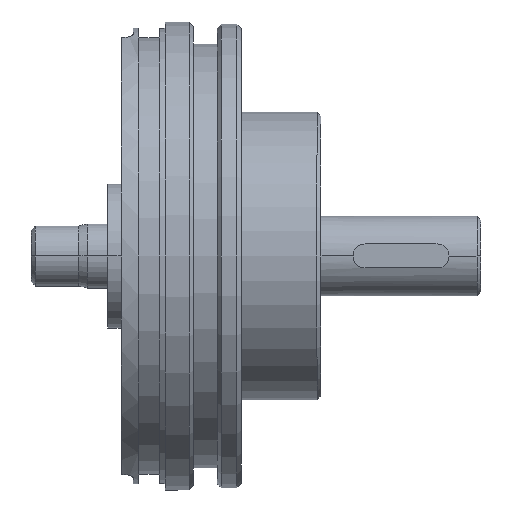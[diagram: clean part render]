
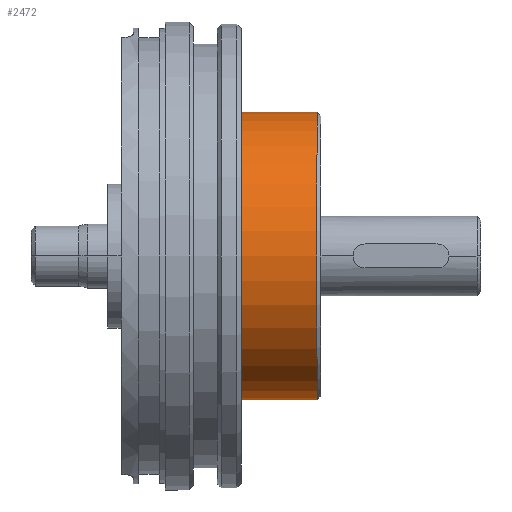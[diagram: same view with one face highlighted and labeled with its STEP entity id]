
A CAD part, left-side view. The second image highlights one B-rep face of the part: STEP entity #2472.
In plain terms, the highlighted cylindrical face has radius 18 mm (diameter 36 mm), a partial arc.
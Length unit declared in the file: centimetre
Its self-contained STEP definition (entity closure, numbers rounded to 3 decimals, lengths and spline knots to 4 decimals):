
#442 = VERTEX_POINT ( 'NONE', #4268 ) ;
#462 = EDGE_CURVE ( 'NONE', #1632, #442, #4298, .T. ) ;
#1632 = VERTEX_POINT ( 'NONE', #5223 ) ;
#1704 = VERTEX_POINT ( 'NONE', #5374 ) ;
#2435 = ORIENTED_EDGE ( 'NONE', *, *, #2480, .F. ) ;
#2442 = EDGE_CURVE ( 'NONE', #1632, #1704, #6720, .T. ) ;
#2443 = ORIENTED_EDGE ( 'NONE', *, *, #2820, .T. ) ;
#2459 = ORIENTED_EDGE ( 'NONE', *, *, #2442, .T. ) ;
#2469 = ORIENTED_EDGE ( 'NONE', *, *, #462, .F. ) ;
#2472 = ADVANCED_FACE ( 'NONE', ( #6738 ), #6736, .T. ) ;
#2479 = EDGE_LOOP ( 'NONE', ( #2469, #2459, #2443, #2435 ) ) ;
#2480 = EDGE_CURVE ( 'NONE', #442, #2849, #6775, .T. ) ;
#2820 = EDGE_CURVE ( 'NONE', #1704, #2849, #7391, .T. ) ;
#2849 = VERTEX_POINT ( 'NONE', #7402 ) ;
#4268 = CARTESIAN_POINT ( 'NONE',  ( 0., 3.2909, -1.8 ) ) ;
#4295 = DIRECTION ( 'NONE',  ( 0., 1., 0. ) ) ;
#4296 = VECTOR ( 'NONE', #4295, 100. ) ;
#4297 = CARTESIAN_POINT ( 'NONE',  ( 0., 4.7909, -1.8 ) ) ;
#4298 = LINE ( 'NONE', #4297, #4296 ) ;
#5223 = CARTESIAN_POINT ( 'NONE',  ( 0., 2.3409, -1.8 ) ) ;
#5374 = CARTESIAN_POINT ( 'NONE',  ( 0., 2.3409, 1.8 ) ) ;
#6716 = DIRECTION ( 'NONE',  ( 0., 0., -1. ) ) ;
#6717 = DIRECTION ( 'NONE',  ( 0., 1., 0. ) ) ;
#6718 = CARTESIAN_POINT ( 'NONE',  ( 0., 2.3409, 0. ) ) ;
#6719 = AXIS2_PLACEMENT_3D ( 'NONE', #6718, #6717, #6716 ) ;
#6720 = CIRCLE ( 'NONE', #6719, 1.8 ) ;
#6736 = CYLINDRICAL_SURFACE ( 'NONE', #6799, 1.8 ) ;
#6737 = CARTESIAN_POINT ( 'NONE',  ( 0., 4.7909, 0. ) ) ;
#6738 = FACE_OUTER_BOUND ( 'NONE', #2479, .T. ) ;
#6772 = DIRECTION ( 'NONE',  ( 0., 0., 1. ) ) ;
#6773 = DIRECTION ( 'NONE',  ( 0., 1., 0. ) ) ;
#6774 = AXIS2_PLACEMENT_3D ( 'NONE', #6780, #6773, #6772 ) ;
#6775 = CIRCLE ( 'NONE', #6774, 1.8 ) ;
#6780 = CARTESIAN_POINT ( 'NONE',  ( 0., 3.2909, 0. ) ) ;
#6797 = DIRECTION ( 'NONE',  ( 0., 0., 1. ) ) ;
#6798 = DIRECTION ( 'NONE',  ( 0., 1., 0. ) ) ;
#6799 = AXIS2_PLACEMENT_3D ( 'NONE', #6737, #6798, #6797 ) ;
#7388 = DIRECTION ( 'NONE',  ( 0., 1., 0. ) ) ;
#7389 = VECTOR ( 'NONE', #7388, 100. ) ;
#7390 = CARTESIAN_POINT ( 'NONE',  ( 0., 4.7909, 1.8 ) ) ;
#7391 = LINE ( 'NONE', #7390, #7389 ) ;
#7402 = CARTESIAN_POINT ( 'NONE',  ( 0., 3.2909, 1.8 ) ) ;
